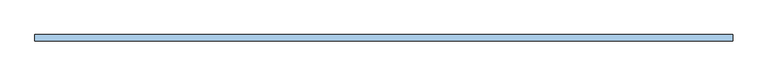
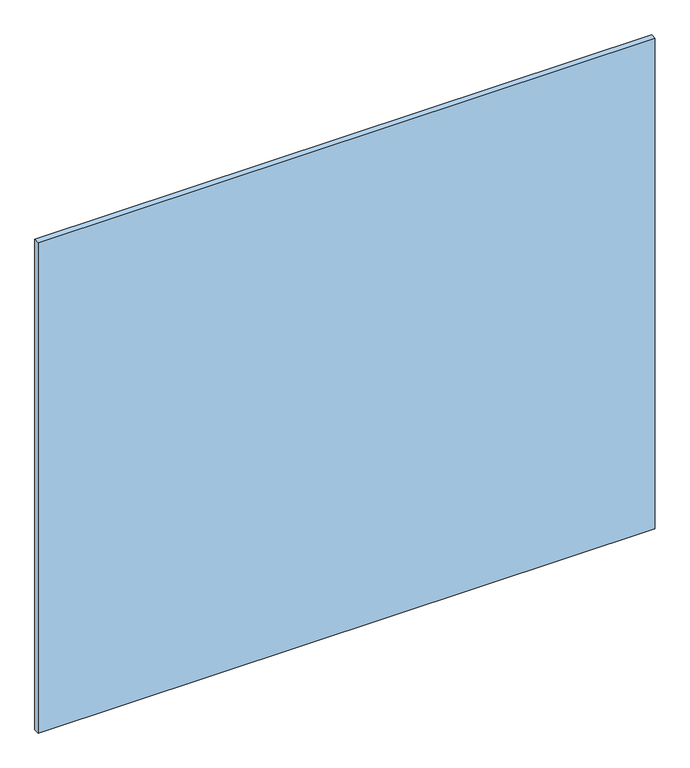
"""IFC4 building model written with IfcOpenShell, lengths in millimetres: window geometry, espejo biselado sin marco : ESP-8 espejo biselado 130 x 105."""

from ifc_helpers import new_model, si_unit, origin, origin_with_axes, place, context, project, spatial, polyline, outline, extrude, source, transform, mapped, element, save


def window_e65b4c61(model_context):
    return source(origin(), model_context, "Body", "SweptSolid", [
        extrude(outline(polyline([(-595.0, 79.0), (-595.0, 90.0), (595.0, 90.0), (595.0, 79.0), (-595.0, 79.0)])), origin_with_axes(), (0.0, 0.0, 1.0), 1000.0),
    ])


if __name__ == "__main__":
    model = new_model("IFC4")
    model_context = context("Model", 3, world=origin())
    ifc_project = project(units=[si_unit("LENGTHUNIT", "METRE", prefix="MILLI")], contexts=[model_context])
    site = spatial("IfcSite", under=ifc_project)
    building = spatial("IfcBuilding", under=site)
    placement = place(None, origin())
    window_shape = window_e65b4c61(model_context)
    element("IfcWindow", 1, ObjectType="espejo biselado sin marco : ESP-8 espejo biselado 130 x 105", at=placement, inside=building, context=model_context, shape_type="MappedRepresentation", body=[
        mapped(window_shape, transform((0.0, 0.0, 0.0), x_axis=(1.0, 0.0, 0.0), y_axis=(0.0, 1.0, 0.0), z_axis=(0.0, 0.0, 1.0))),
    ])
    save(model, "model.ifc")
